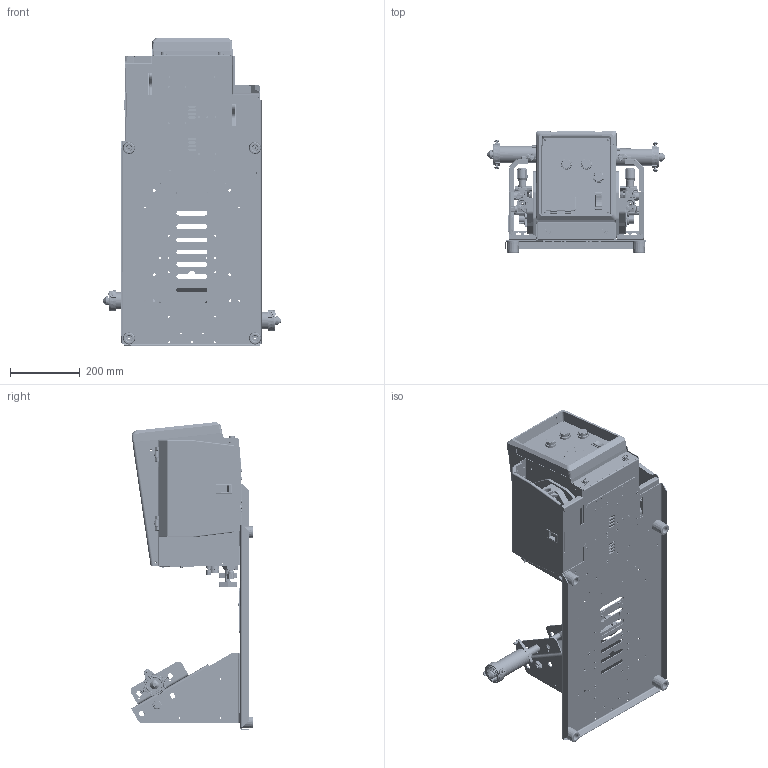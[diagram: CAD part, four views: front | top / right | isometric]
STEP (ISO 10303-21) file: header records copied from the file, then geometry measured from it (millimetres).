
FILE_DESCRIPTION (( 'STEP AP214' ), '1' );
FILE_NAME ('301540.STEP', '2020-03-03T21:18:19', ( '' ), ( '' ), 'SwSTEP 2.0', 'SolidWorks 2017', '' );
FILE_SCHEMA (( 'AUTOMOTIVE_DESIGN' ));
Length unit declared in the file: inch
Products named in the file (149): 280534_93406A145; 089899; 283075; 284074; 092865; 284351; 281510; 280542-REF; 234073; 279257; 284476; 239737-3; 284199; 211990; 279883; 196895; 285811; 279167; 166072; 284073; 245663; 279251; 284475; 284071; 267899; hex finished bolt_ai_HFBOLT 0.375-16x1.25x1-N; 072785; 20483-MALE LEAF; 301540; 282106_91280A132; 273794; 278338; 284187; 058426; 279254; 605525; 282105 - Female Leaf; 287027; 279189; 282105 - Male Leaf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
Assembly tree (287 placements, depth 5):
  301540
    284079
      284073
      284071
        279169
        283073-ref_without cable ribbons
        279272
          279272
          250955  x8
        200295
        245663  x3
        279189
        278338
          279883
          279884
          281509
          281510
          280542-REF
          280537-REF
          280534_93406A145  x7
        072785  x8
      111997
      226819_New Design  x2
        226819-1_New Design
        226819-2
      220805  x2
      211989  x2
        209935
        211990
      239737
        239737-1
        239737-2
        239737-3
        239737-4_90545A111
      284074
      284075
      081560  x2
      280064
      284392
      267900
      601835
      156734  x2
      281158  x2
    139226
      139228
    134306  x4
    284187
      284199
      279267  x2
      282105  x4
        282105 - Male Leaf
          20483-MALE LEAF
          20483-ADJ NUT
          20483-ADJ SCREW
        282105 - Female Leaf
      089899  x2
        SW3dPS-a3-40-625-12_a3_slide_40_625_clf
        SW3dPS-a3-40-625-12_A3_TORSION_SPRING_CLF
      282106_91280A132  x16
      282107_90576A103  x8
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Bounding box: 506.39 x 351.17 x 880.48 mm (x, y, z)
Volume: 5047568.7 mm3; surface area: 3854732 mm2
Topology: 343 solids, 354 shells, 28452 faces, 73968 edges, 46954 vertices
Faces by surface type: plane 11727, cylinder 9531, bspline 3154, cone 2478, torus 1302, sphere 260
Entity records: 616573 total; most frequent: CARTESIAN_POINT 207170, ORIENTED_EDGE 80318, DIRECTION 71494, EDGE_CURVE 40159, VERTEX_POINT 25470, AXIS2_PLACEMENT_3D 24892, LINE 21710, VECTOR 21710
